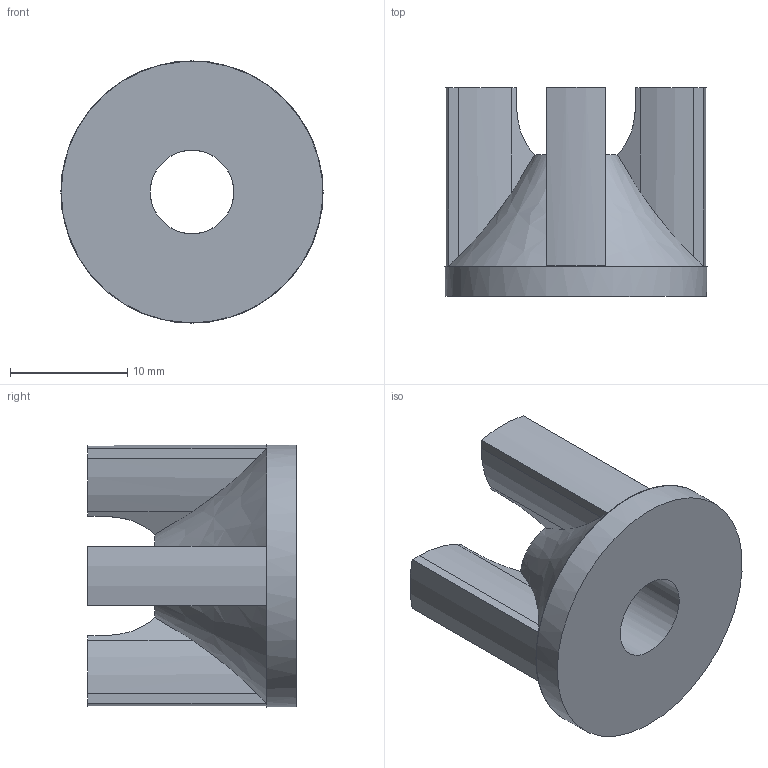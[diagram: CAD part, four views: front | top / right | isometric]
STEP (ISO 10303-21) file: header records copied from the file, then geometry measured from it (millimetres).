
FILE_DESCRIPTION(/* description */ (''),/* implementation_level */ '2;1');
FILE_NAME(/* name */ 'C:/Users/Owner/Desktop/liberator suppressed/STEP Files/22 Caliber versions/28 Cal Liberator Suppressor baffle.step',/* time_stamp */ '2020-04-23T22:08:48-04:00',/* author */ (''),/* organization */ (''),/* preprocessor_version */ 'ST-DEVELOPER v18.1',/* originating_system */ 'Autodesk Translation Framework v9.2.0.1227',/* authorisation */ '');
FILE_SCHEMA (('AUTOMOTIVE_DESIGN { 1 0 10303 214 3 1 1 }'));
Length unit declared in the file: inch
Products named in the file (1): .7 x .878 lib sup baffle 28 cal
Bounding box: 22.35 x 17.78 x 22.35 mm (x, y, z)
Volume: 3452 mm3; surface area: 2251.1 mm2
Topology: 1 solids, 1 shells, 45 faces, 132 edges, 89 vertices
Faces by surface type: plane 26, cylinder 14, bspline 5
Full cylindrical faces by diameter (mm): 7.112 x1, 22.301 x1
Entity records: 2589 total; most frequent: CARTESIAN_POINT 1421, ORIENTED_EDGE 264, DIRECTION 202, EDGE_CURVE 132, VERTEX_POINT 89, AXIS2_PLACEMENT_3D 74, LINE 54, VECTOR 54
